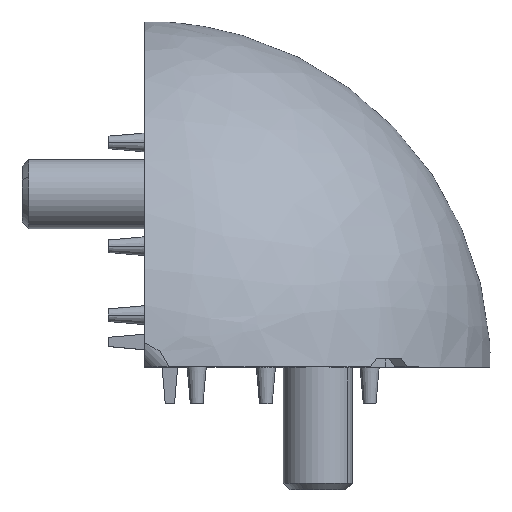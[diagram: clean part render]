
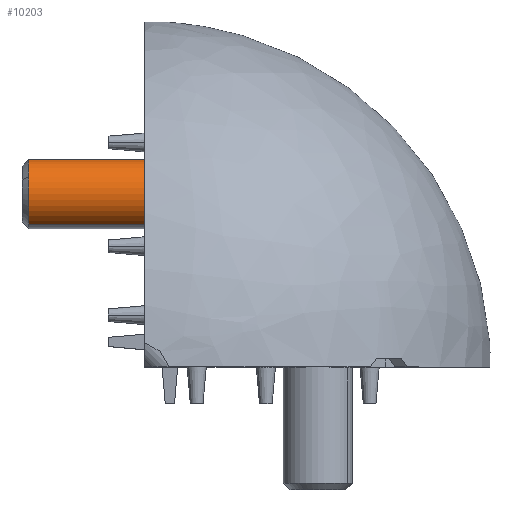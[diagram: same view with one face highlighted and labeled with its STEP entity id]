
A CAD part, top view. The second image highlights one B-rep face of the part: STEP entity #10203.
In plain terms, the highlighted cylindrical face has radius 4 mm (diameter 8 mm), a partial arc.
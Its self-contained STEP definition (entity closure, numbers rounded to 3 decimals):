
#22 = VECTOR ( 'NONE', #6511, 1000. ) ;
#84 = VERTEX_POINT ( 'NONE', #7957 ) ;
#121 = EDGE_CURVE ( 'NONE', #84, #6522, #3514, .T. ) ;
#389 = EDGE_LOOP ( 'NONE', ( #5588, #542, #7150, #4434, #2067 ) ) ;
#525 = AXIS2_PLACEMENT_3D ( 'NONE', #5786, #4731, #4892 ) ;
#542 = ORIENTED_EDGE ( 'NONE', *, *, #10954, .T. ) ;
#945 = EDGE_CURVE ( 'NONE', #1235, #6522, #9316, .T. ) ;
#1140 = LINE ( 'NONE', #6906, #10453 ) ;
#1179 = AXIS2_PLACEMENT_3D ( 'NONE', #2206, #8525, #3096 ) ;
#1235 = VERTEX_POINT ( 'NONE', #8465 ) ;
#1514 = DIRECTION ( 'NONE',  ( 1., 0., 0. ) ) ;
#1608 = EDGE_CURVE ( 'NONE', #11553, #84, #7746, .T. ) ;
#2067 = ORIENTED_EDGE ( 'NONE', *, *, #121, .T. ) ;
#2206 = CARTESIAN_POINT ( 'NONE',  ( -5., 20., 20. ) ) ;
#2876 = AXIS2_PLACEMENT_3D ( 'NONE', #9285, #7330, #3847 ) ;
#3096 = DIRECTION ( 'NONE',  ( 0., 1., 0. ) ) ;
#3281 = EDGE_CURVE ( 'NONE', #4706, #11553, #1140, .T. ) ;
#3514 = CIRCLE ( 'NONE', #6696, 4. ) ;
#3847 = DIRECTION ( 'NONE',  ( 0., 1., 0. ) ) ;
#4434 = ORIENTED_EDGE ( 'NONE', *, *, #1608, .T. ) ;
#4706 = VERTEX_POINT ( 'NONE', #7820 ) ;
#4731 = DIRECTION ( 'NONE',  ( -1., 0., 0. ) ) ;
#4789 = CIRCLE ( 'NONE', #1179, 4. ) ;
#4815 = CARTESIAN_POINT ( 'NONE',  ( 6.25, 16., 20. ) ) ;
#4892 = DIRECTION ( 'NONE',  ( 0., 1., 0. ) ) ;
#5317 = CARTESIAN_POINT ( 'NONE',  ( 14.233, 24., 20. ) ) ;
#5588 = ORIENTED_EDGE ( 'NONE', *, *, #945, .F. ) ;
#5786 = CARTESIAN_POINT ( 'NONE',  ( 14.233, 20., 20. ) ) ;
#6511 = DIRECTION ( 'NONE',  ( 1., 0., 0. ) ) ;
#6522 = VERTEX_POINT ( 'NONE', #7238 ) ;
#6696 = AXIS2_PLACEMENT_3D ( 'NONE', #10639, #10755, #10791 ) ;
#6896 = FACE_OUTER_BOUND ( 'NONE', #389, .T. ) ;
#6906 = CARTESIAN_POINT ( 'NONE',  ( 6.25, 24., 20. ) ) ;
#7150 = ORIENTED_EDGE ( 'NONE', *, *, #3281, .T. ) ;
#7238 = CARTESIAN_POINT ( 'NONE',  ( 14.233, 16., 20. ) ) ;
#7330 = DIRECTION ( 'NONE',  ( 1., 0., 0. ) ) ;
#7746 = CIRCLE ( 'NONE', #525, 4. ) ;
#7820 = CARTESIAN_POINT ( 'NONE',  ( -5., 24., 20. ) ) ;
#7957 = CARTESIAN_POINT ( 'NONE',  ( 14.233, 20., 16. ) ) ;
#8180 = CYLINDRICAL_SURFACE ( 'NONE', #2876, 4. ) ;
#8465 = CARTESIAN_POINT ( 'NONE',  ( -5., 16., 20. ) ) ;
#8525 = DIRECTION ( 'NONE',  ( 1., 0., 0. ) ) ;
#9285 = CARTESIAN_POINT ( 'NONE',  ( 6.25, 20., 20. ) ) ;
#9316 = LINE ( 'NONE', #4815, #22 ) ;
#10203 = ADVANCED_FACE ( 'NONE', ( #6896 ), #8180, .T. ) ;
#10453 = VECTOR ( 'NONE', #1514, 1000. ) ;
#10639 = CARTESIAN_POINT ( 'NONE',  ( 14.233, 20., 20. ) ) ;
#10755 = DIRECTION ( 'NONE',  ( -1., 0., 0. ) ) ;
#10791 = DIRECTION ( 'NONE',  ( 0., 1., 0. ) ) ;
#10954 = EDGE_CURVE ( 'NONE', #1235, #4706, #4789, .T. ) ;
#11553 = VERTEX_POINT ( 'NONE', #5317 ) ;
